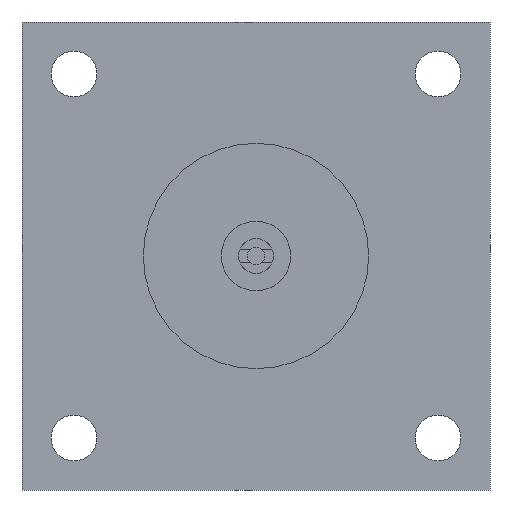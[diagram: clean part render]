
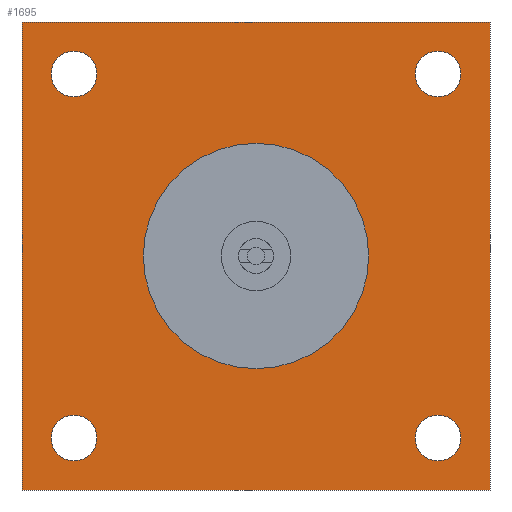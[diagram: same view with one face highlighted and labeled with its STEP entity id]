
A CAD part, left-side view. The second image highlights one B-rep face of the part: STEP entity #1695.
In plain terms, the highlighted planar face has unit normal (-1, 0, 0).
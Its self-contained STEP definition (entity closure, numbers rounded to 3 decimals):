
#8 = CARTESIAN_POINT ( 'NONE',  ( -25., -105., 105. ) ) ;
#28 = DIRECTION ( 'NONE',  ( -1., 0., 0. ) ) ;
#29 = CIRCLE ( 'NONE', #32, 13.25 ) ;
#32 = AXIS2_PLACEMENT_3D ( 'NONE', #1319, #1323, #1335 ) ;
#36 = AXIS2_PLACEMENT_3D ( 'NONE', #1253, #1268, #1382 ) ;
#41 = DIRECTION ( 'NONE',  ( 0., 0., 1. ) ) ;
#44 = CARTESIAN_POINT ( 'NONE',  ( -25., -105., -105. ) ) ;
#46 = CARTESIAN_POINT ( 'NONE',  ( -25., 105., -105. ) ) ;
#47 = DIRECTION ( 'NONE',  ( -1., 0., 0. ) ) ;
#48 = PLANE ( 'NONE',  #957 ) ;
#61 = DIRECTION ( 'NONE',  ( 0., 0., 1. ) ) ;
#66 = EDGE_CURVE ( 'NONE', #1651, #837, #736, .T. ) ;
#80 = VECTOR ( 'NONE', #893, 1000. ) ;
#84 = CARTESIAN_POINT ( 'NONE',  ( -25., -105., 91.75 ) ) ;
#88 = CARTESIAN_POINT ( 'NONE',  ( -25., 0., 0. ) ) ;
#114 = EDGE_CURVE ( 'NONE', #1116, #1049, #476, .T. ) ;
#135 = LINE ( 'NONE', #807, #80 ) ;
#142 = DIRECTION ( 'NONE',  ( 0., 0., -1. ) ) ;
#146 = VERTEX_POINT ( 'NONE', #495 ) ;
#162 = AXIS2_PLACEMENT_3D ( 'NONE', #511, #637, #615 ) ;
#211 = DIRECTION ( 'NONE',  ( 0., 0., 1. ) ) ;
#219 = DIRECTION ( 'NONE',  ( -1., 0., 0. ) ) ;
#233 = EDGE_LOOP ( 'NONE', ( #1021, #995, #1749, #1239 ) ) ;
#260 = CARTESIAN_POINT ( 'NONE',  ( -25., 135., 135. ) ) ;
#286 = AXIS2_PLACEMENT_3D ( 'NONE', #1290, #1294, #1308 ) ;
#301 = CARTESIAN_POINT ( 'NONE',  ( -25., 105., 105. ) ) ;
#304 = AXIS2_PLACEMENT_3D ( 'NONE', #1487, #1514, #1527 ) ;
#307 = DIRECTION ( 'NONE',  ( -1., 0., 0. ) ) ;
#313 = DIRECTION ( 'NONE',  ( 0., 0., 1. ) ) ;
#323 = EDGE_CURVE ( 'NONE', #1334, #1056, #135, .T. ) ;
#338 = EDGE_LOOP ( 'NONE', ( #408, #443 ) ) ;
#366 = VERTEX_POINT ( 'NONE', #260 ) ;
#408 = ORIENTED_EDGE ( 'NONE', *, *, #425, .F. ) ;
#414 = EDGE_CURVE ( 'NONE', #897, #1334, #1691, .T. ) ;
#415 = FACE_OUTER_BOUND ( 'NONE', #233, .T. ) ;
#425 = EDGE_CURVE ( 'NONE', #802, #1568, #1234, .T. ) ;
#426 = EDGE_CURVE ( 'NONE', #1049, #1116, #29, .T. ) ;
#435 = FACE_BOUND ( 'NONE', #654, .T. ) ;
#437 = FACE_BOUND ( 'NONE', #833, .T. ) ;
#439 = CARTESIAN_POINT ( 'NONE',  ( -25., 135., -135. ) ) ;
#441 = ORIENTED_EDGE ( 'NONE', *, *, #66, .F. ) ;
#443 = ORIENTED_EDGE ( 'NONE', *, *, #1227, .F. ) ;
#471 = CARTESIAN_POINT ( 'NONE',  ( -25., 135., 135. ) ) ;
#474 = CARTESIAN_POINT ( 'NONE',  ( -25., -135., -135. ) ) ;
#476 = CIRCLE ( 'NONE', #768, 13.25 ) ;
#477 = LINE ( 'NONE', #505, #556 ) ;
#478 = FACE_BOUND ( 'NONE', #566, .T. ) ;
#480 = FACE_BOUND ( 'NONE', #483, .T. ) ;
#483 = EDGE_LOOP ( 'NONE', ( #522, #772 ) ) ;
#495 = CARTESIAN_POINT ( 'NONE',  ( -25., 105., -91.75 ) ) ;
#505 = CARTESIAN_POINT ( 'NONE',  ( -25., 135., 135. ) ) ;
#511 = CARTESIAN_POINT ( 'NONE',  ( -25., -105., 105. ) ) ;
#522 = ORIENTED_EDGE ( 'NONE', *, *, #605, .F. ) ;
#544 = ORIENTED_EDGE ( 'NONE', *, *, #663, .F. ) ;
#556 = VECTOR ( 'NONE', #733, 1000. ) ;
#566 = EDGE_LOOP ( 'NONE', ( #839, #840 ) ) ;
#575 = FACE_BOUND ( 'NONE', #338, .T. ) ;
#583 = DIRECTION ( 'NONE',  ( 0., 0., -1. ) ) ;
#605 = EDGE_CURVE ( 'NONE', #1608, #699, #963, .T. ) ;
#615 = DIRECTION ( 'NONE',  ( 0., 0., 1. ) ) ;
#617 = EDGE_CURVE ( 'NONE', #618, #146, #991, .T. ) ;
#618 = VERTEX_POINT ( 'NONE', #1232 ) ;
#637 = DIRECTION ( 'NONE',  ( -1., 0., 0. ) ) ;
#654 = EDGE_LOOP ( 'NONE', ( #1444, #1700 ) ) ;
#657 = CARTESIAN_POINT ( 'NONE',  ( -25., -105., -118.25 ) ) ;
#663 = EDGE_CURVE ( 'NONE', #837, #1651, #1039, .T. ) ;
#699 = VERTEX_POINT ( 'NONE', #657 ) ;
#733 = DIRECTION ( 'NONE',  ( 0., 1., 0. ) ) ;
#736 = CIRCLE ( 'NONE', #162, 13.25 ) ;
#742 = CARTESIAN_POINT ( 'NONE',  ( -25., -135., 135. ) ) ;
#767 = CARTESIAN_POINT ( 'NONE',  ( -25., 0., -65. ) ) ;
#768 = AXIS2_PLACEMENT_3D ( 'NONE', #301, #307, #313 ) ;
#772 = ORIENTED_EDGE ( 'NONE', *, *, #1426, .F. ) ;
#788 = EDGE_CURVE ( 'NONE', #366, #897, #1085, .T. ) ;
#802 = VERTEX_POINT ( 'NONE', #767 ) ;
#807 = CARTESIAN_POINT ( 'NONE',  ( -25., -135., 135. ) ) ;
#833 = EDGE_LOOP ( 'NONE', ( #441, #544 ) ) ;
#837 = VERTEX_POINT ( 'NONE', #84 ) ;
#839 = ORIENTED_EDGE ( 'NONE', *, *, #426, .F. ) ;
#840 = ORIENTED_EDGE ( 'NONE', *, *, #114, .F. ) ;
#849 = CARTESIAN_POINT ( 'NONE',  ( -25., 105., 91.75 ) ) ;
#890 = EDGE_CURVE ( 'NONE', #1056, #366, #477, .T. ) ;
#893 = DIRECTION ( 'NONE',  ( 0., 0., 1. ) ) ;
#897 = VERTEX_POINT ( 'NONE', #439 ) ;
#957 = AXIS2_PLACEMENT_3D ( 'NONE', #88, #1797, #142 ) ;
#963 = CIRCLE ( 'NONE', #36, 13.25 ) ;
#991 = CIRCLE ( 'NONE', #304, 13.25 ) ;
#995 = ORIENTED_EDGE ( 'NONE', *, *, #323, .T. ) ;
#1021 = ORIENTED_EDGE ( 'NONE', *, *, #414, .T. ) ;
#1039 = CIRCLE ( 'NONE', #1756, 13.25 ) ;
#1049 = VERTEX_POINT ( 'NONE', #1102 ) ;
#1056 = VERTEX_POINT ( 'NONE', #742 ) ;
#1085 = LINE ( 'NONE', #471, #1125 ) ;
#1102 = CARTESIAN_POINT ( 'NONE',  ( -25., 105., 118.25 ) ) ;
#1116 = VERTEX_POINT ( 'NONE', #849 ) ;
#1121 = CARTESIAN_POINT ( 'NONE',  ( -25., 0., 65. ) ) ;
#1125 = VECTOR ( 'NONE', #583, 1000. ) ;
#1181 = CARTESIAN_POINT ( 'NONE',  ( -25., 135., -135. ) ) ;
#1198 = DIRECTION ( 'NONE',  ( 0., -1., 0. ) ) ;
#1227 = EDGE_CURVE ( 'NONE', #1568, #802, #1558, .T. ) ;
#1232 = CARTESIAN_POINT ( 'NONE',  ( -25., 105., -118.25 ) ) ;
#1234 = CIRCLE ( 'NONE', #286, 65. ) ;
#1239 = ORIENTED_EDGE ( 'NONE', *, *, #788, .T. ) ;
#1253 = CARTESIAN_POINT ( 'NONE',  ( -25., -105., -105. ) ) ;
#1268 = DIRECTION ( 'NONE',  ( -1., 0., 0. ) ) ;
#1290 = CARTESIAN_POINT ( 'NONE',  ( -25., 0., 0. ) ) ;
#1294 = DIRECTION ( 'NONE',  ( -1., 0., 0. ) ) ;
#1308 = DIRECTION ( 'NONE',  ( 0., 0., -1. ) ) ;
#1319 = CARTESIAN_POINT ( 'NONE',  ( -25., 105., 105. ) ) ;
#1323 = DIRECTION ( 'NONE',  ( -1., 0., 0. ) ) ;
#1334 = VERTEX_POINT ( 'NONE', #474 ) ;
#1335 = DIRECTION ( 'NONE',  ( 0., 0., 1. ) ) ;
#1337 = CARTESIAN_POINT ( 'NONE',  ( -25., -105., -91.75 ) ) ;
#1355 = CARTESIAN_POINT ( 'NONE',  ( -25., 0., 0. ) ) ;
#1382 = DIRECTION ( 'NONE',  ( 0., 0., 1. ) ) ;
#1385 = EDGE_CURVE ( 'NONE', #146, #618, #1512, .T. ) ;
#1416 = DIRECTION ( 'NONE',  ( -1., 0., 0. ) ) ;
#1424 = DIRECTION ( 'NONE',  ( 0., 0., -1. ) ) ;
#1426 = EDGE_CURVE ( 'NONE', #699, #1608, #1457, .T. ) ;
#1444 = ORIENTED_EDGE ( 'NONE', *, *, #1385, .F. ) ;
#1457 = CIRCLE ( 'NONE', #1748, 13.25 ) ;
#1487 = CARTESIAN_POINT ( 'NONE',  ( -25., 105., -105. ) ) ;
#1512 = CIRCLE ( 'NONE', #1786, 13.25 ) ;
#1514 = DIRECTION ( 'NONE',  ( -1., 0., 0. ) ) ;
#1527 = DIRECTION ( 'NONE',  ( 0., 0., 1. ) ) ;
#1558 = CIRCLE ( 'NONE', #1599, 65. ) ;
#1568 = VERTEX_POINT ( 'NONE', #1121 ) ;
#1599 = AXIS2_PLACEMENT_3D ( 'NONE', #1355, #1416, #1424 ) ;
#1608 = VERTEX_POINT ( 'NONE', #1337 ) ;
#1623 = CARTESIAN_POINT ( 'NONE',  ( -25., -105., 118.25 ) ) ;
#1651 = VERTEX_POINT ( 'NONE', #1623 ) ;
#1666 = VECTOR ( 'NONE', #1198, 1000. ) ;
#1691 = LINE ( 'NONE', #1181, #1666 ) ;
#1695 = ADVANCED_FACE ( 'NONE', ( #575, #437, #480, #478, #435, #415 ), #48, .F. ) ;
#1700 = ORIENTED_EDGE ( 'NONE', *, *, #617, .F. ) ;
#1748 = AXIS2_PLACEMENT_3D ( 'NONE', #44, #47, #61 ) ;
#1749 = ORIENTED_EDGE ( 'NONE', *, *, #890, .T. ) ;
#1756 = AXIS2_PLACEMENT_3D ( 'NONE', #8, #28, #41 ) ;
#1786 = AXIS2_PLACEMENT_3D ( 'NONE', #46, #219, #211 ) ;
#1797 = DIRECTION ( 'NONE',  ( 1., 0., 0. ) ) ;
